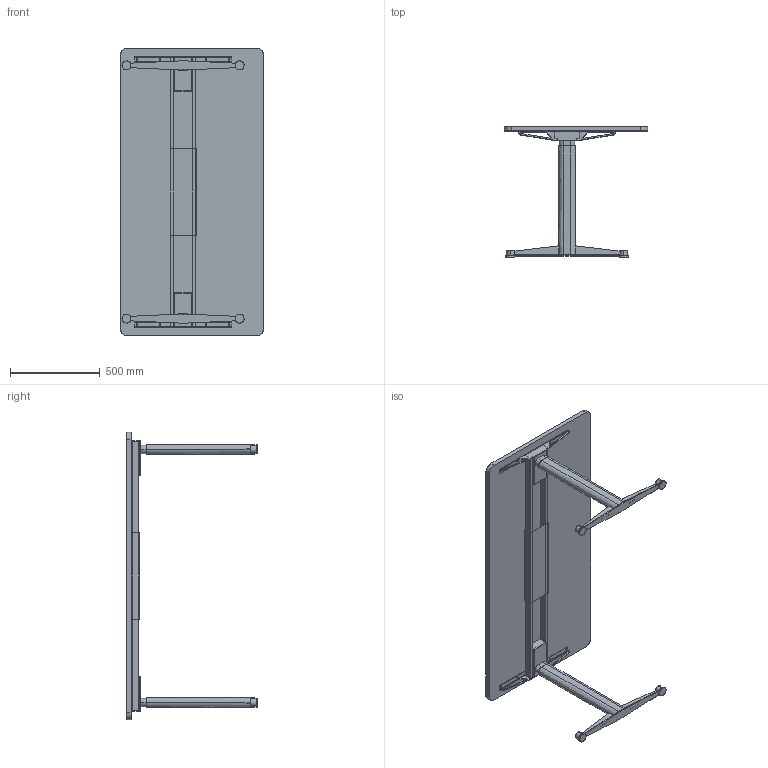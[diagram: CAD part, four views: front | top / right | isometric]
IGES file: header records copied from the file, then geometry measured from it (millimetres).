
Start section: SolidWorks IGES file using analytic representation for surfaces
Global section: file name: C:\Users\simone.cerana\OneDrive - Gruppo Tecno\Desktop\CHINA\DISEGNI DI SERIE\ASSIEMI LISTINO\AXIS LISTINO\AX1608ST.IGS; native system: SolidWorks 2024; preprocessor: SolidWorks 2024; author: simone.cerana; date: 260508.091514; units: millimetre
Bounding box: 800 x 729.39 x 1600 mm (x, y, z)
Surface area: 3798425.1 mm2 (no closed solid volume)
Topology: 0 solids, 0 shells, 290 faces, 4168 edges, 4164 vertices
Faces by surface type: bspline 162, revolution 128
